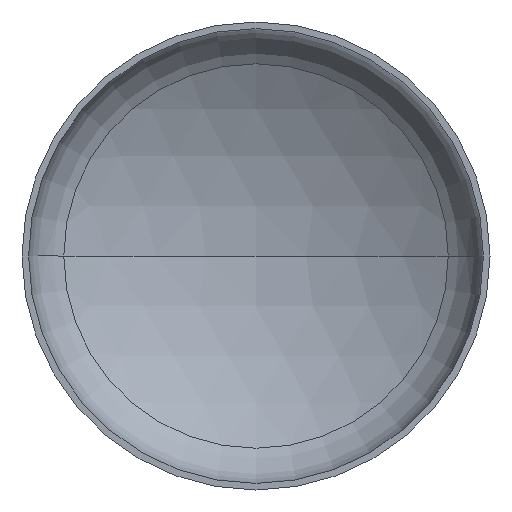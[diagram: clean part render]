
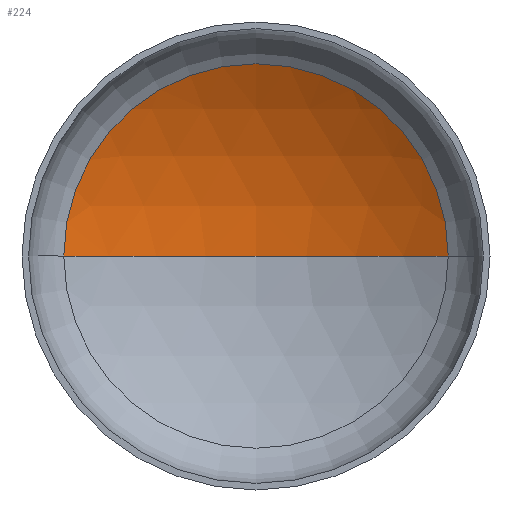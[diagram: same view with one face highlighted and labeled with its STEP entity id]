
A CAD part, front view. The second image highlights one B-rep face of the part: STEP entity #224.
In plain terms, the highlighted spherical face has radius 2720 mm.
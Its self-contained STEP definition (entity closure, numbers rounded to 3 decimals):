
#2 = AXIS2_PLACEMENT_3D ( 'NONE', #408, #218, #217 ) ;
#11 = EDGE_LOOP ( 'NONE', ( #42, #133, #125 ) ) ;
#17 = AXIS2_PLACEMENT_3D ( 'NONE', #285, #333, #331 ) ;
#29 = AXIS2_PLACEMENT_3D ( 'NONE', #255, #253, #249 ) ;
#33 = VERTEX_POINT ( 'NONE', #226 ) ;
#35 = VERTEX_POINT ( 'NONE', #171 ) ;
#39 = AXIS2_PLACEMENT_3D ( 'NONE', #264, #261, #269 ) ;
#42 = ORIENTED_EDGE ( 'NONE', *, *, #344, .F. ) ;
#104 = EDGE_CURVE ( 'NONE', #127, #33, #234, .T. ) ;
#109 = EDGE_CURVE ( 'NONE', #35, #127, #164, .T. ) ;
#125 = ORIENTED_EDGE ( 'NONE', *, *, #104, .T. ) ;
#127 = VERTEX_POINT ( 'NONE', #260 ) ;
#133 = ORIENTED_EDGE ( 'NONE', *, *, #109, .T. ) ;
#158 = SPHERICAL_SURFACE ( 'NONE', #17, 2720. ) ;
#164 = CIRCLE ( 'NONE', #29, 2720. ) ;
#171 = CARTESIAN_POINT ( 'NONE',  ( 0., 986.414, 0. ) ) ;
#217 = DIRECTION ( 'NONE',  ( 1., 0., 0. ) ) ;
#218 = DIRECTION ( 'NONE',  ( 0., 0., 1. ) ) ;
#224 = ADVANCED_FACE ( 'NONE', ( #395 ), #158, .F. ) ;
#226 = CARTESIAN_POINT ( 'NONE',  ( -1396.556, 600.516, 0. ) ) ;
#234 = CIRCLE ( 'NONE', #39, 1396.556 ) ;
#249 = DIRECTION ( 'NONE',  ( -1., 0., 0. ) ) ;
#253 = DIRECTION ( 'NONE',  ( 0., 0., -1. ) ) ;
#255 = CARTESIAN_POINT ( 'NONE',  ( 0., -1733.586, 0. ) ) ;
#259 = CIRCLE ( 'NONE', #2, 2720. ) ;
#260 = CARTESIAN_POINT ( 'NONE',  ( 1396.556, 600.516, 0. ) ) ;
#261 = DIRECTION ( 'NONE',  ( 0., -1., 0. ) ) ;
#264 = CARTESIAN_POINT ( 'NONE',  ( 0., 600.516, 0. ) ) ;
#269 = DIRECTION ( 'NONE',  ( 1., 0., 0. ) ) ;
#285 = CARTESIAN_POINT ( 'NONE',  ( 0., -1733.586, 0. ) ) ;
#331 = DIRECTION ( 'NONE',  ( -1., 0., 0. ) ) ;
#333 = DIRECTION ( 'NONE',  ( 0., 0., -1. ) ) ;
#344 = EDGE_CURVE ( 'NONE', #35, #33, #259, .T. ) ;
#395 = FACE_OUTER_BOUND ( 'NONE', #11, .T. ) ;
#408 = CARTESIAN_POINT ( 'NONE',  ( 0., -1733.586, 0. ) ) ;
